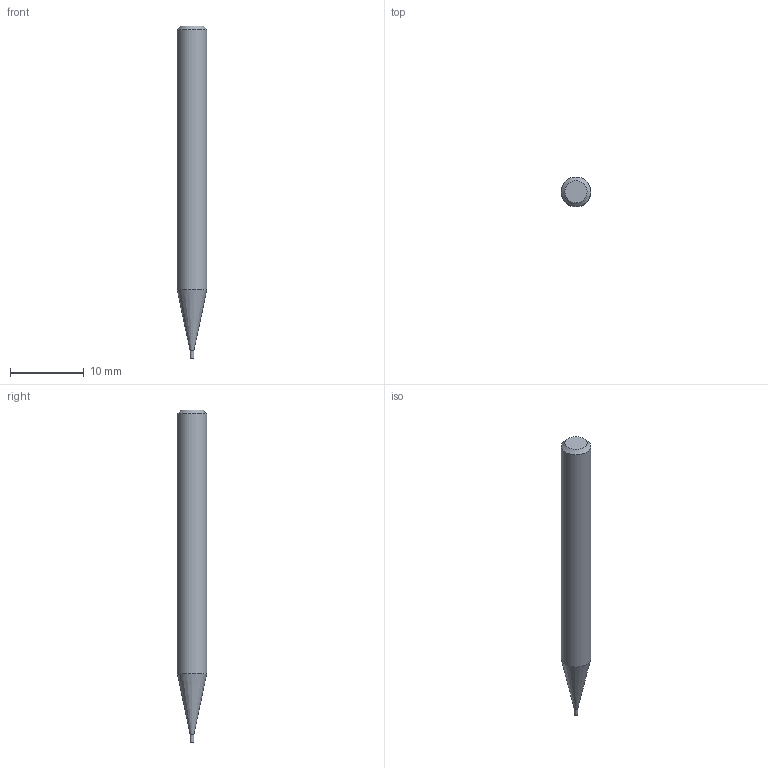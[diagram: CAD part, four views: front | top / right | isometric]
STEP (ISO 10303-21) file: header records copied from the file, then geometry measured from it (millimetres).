
FILE_DESCRIPTION((''),'2;1');
FILE_NAME('C:\Users\nsx150\AppData\Local\Temp\Mastercam 2021\E36A1X9CCL\TEMP.step','2023-04-21T15:12:06',(''),(''),'STEP Write','Mastercam 2021 ... CNC Software, Inc.','');
FILE_SCHEMA(('AUTOMOTIVE_DESIGN'));
Length unit declared in the file: millimetre
Products named in the file (1): None
Bounding box: 4 x 4 x 45 mm (x, y, z)
Volume: 487.6 mm3; surface area: 519.7 mm2
Topology: 2 solids, 2 shells, 8 faces, 10 edges, 6 vertices
Faces by surface type: plane 4, cylinder 2, cone 2
Full cylindrical faces by diameter (mm): 0.5 x1, 4 x1
Entity records: 190 total; most frequent: DIRECTION 32, CARTESIAN_POINT 22, AXIS2_PLACEMENT_3D 16, ORIENTED_EDGE 12, EDGE_LOOP 12, STYLED_ITEM 11, ADVANCED_FACE 8, VERTEX_POINT 6
